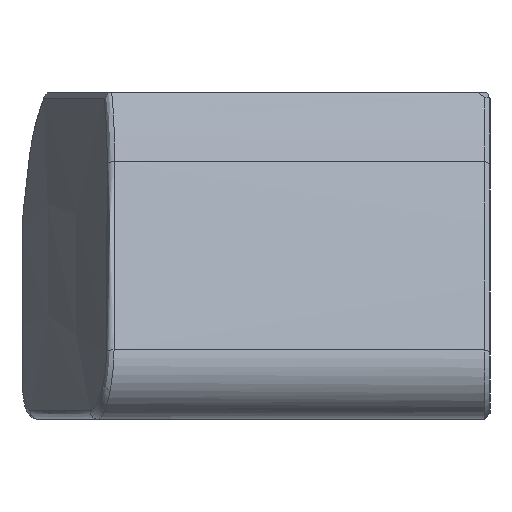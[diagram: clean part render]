
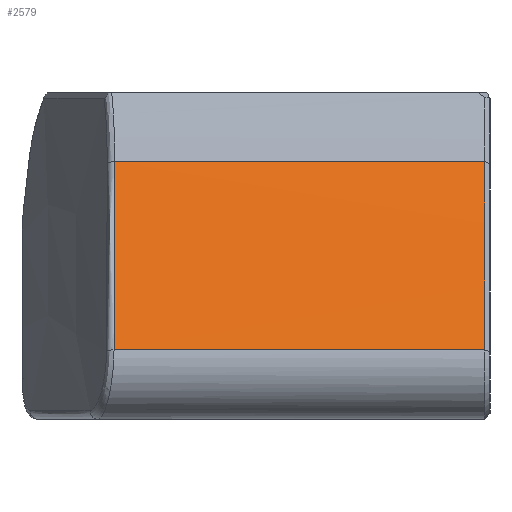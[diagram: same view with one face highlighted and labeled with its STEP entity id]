
A CAD part, left-side view. The second image highlights one B-rep face of the part: STEP entity #2579.
In plain terms, the highlighted cylindrical face has radius 138 mm (diameter 276 mm), a partial arc.
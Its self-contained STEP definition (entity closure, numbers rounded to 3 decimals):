
#778 = LINE ( 'NONE', #779, #4036 ) ;
#779 = CARTESIAN_POINT ( 'NONE',  ( -130.348, -5., 45.313 ) ) ;
#780 = DIRECTION ( 'NONE',  ( 0., -1., 0. ) ) ;
#1423 = CARTESIAN_POINT ( 'NONE',  ( 0., -4.6, 0. ) ) ;
#1424 = DIRECTION ( 'NONE',  ( 0., 1., 0. ) ) ;
#1425 = DIRECTION ( 'NONE',  ( 0., 0., 1. ) ) ;
#1785 = CARTESIAN_POINT ( 'NONE',  ( -124.399, -4.6, 59.741 ) ) ;
#1786 = CARTESIAN_POINT ( 'NONE',  ( -124.399, 23.745, 59.741 ) ) ;
#1787 = CARTESIAN_POINT ( 'NONE',  ( -130.348, 23.801, 45.313 ) ) ;
#1788 = CARTESIAN_POINT ( 'NONE',  ( -130.348, -4.6, 45.313 ) ) ;
#2259 = AXIS2_PLACEMENT_3D ( 'NONE', #1423, #1424, #1425 ) ;
#2420 = EDGE_CURVE ( 'NONE', #5043, #5044, #778, .T. ) ;
#2545 = EDGE_CURVE ( 'NONE', #5042, #5043, #4177, .T. ) ;
#2546 = EDGE_CURVE ( 'NONE', #5041, #5042, #3260, .T. ) ;
#2579 = ADVANCED_FACE ( 'NONE', ( #3999 ), #4020, .T. ) ;
#2706 = EDGE_CURVE ( 'NONE', #5044, #5041, #2723, .T. ) ;
#2723 = CIRCLE ( 'NONE', #2259, 138. ) ;
#3256 = CARTESIAN_POINT ( 'NONE',  ( -124.399, 23.745, 59.741 ) ) ;
#3257 = CARTESIAN_POINT ( 'NONE',  ( -126.654, 23.754, 55.044 ) ) ;
#3258 = CARTESIAN_POINT ( 'NONE',  ( -128.638, 23.773, 50.235 ) ) ;
#3259 = CARTESIAN_POINT ( 'NONE',  ( -130.348, 23.801, 45.313 ) ) ;
#3260 = LINE ( 'NONE', #3261, #3986 ) ;
#3261 = CARTESIAN_POINT ( 'NONE',  ( -124.399, -5., 59.741 ) ) ;
#3262 = DIRECTION ( 'NONE',  ( 0., 1., 0. ) ) ;
#3479 = CARTESIAN_POINT ( 'NONE',  ( 0., -5., 0. ) ) ;
#3480 = DIRECTION ( 'NONE',  ( 0., 1., 0. ) ) ;
#3481 = DIRECTION ( 'NONE',  ( 0., 0., 1. ) ) ;
#3986 = VECTOR ( 'NONE', #3262, 1000. ) ;
#3999 = FACE_OUTER_BOUND ( 'NONE', #5197, .T. ) ;
#4017 = AXIS2_PLACEMENT_3D ( 'NONE', #3479, #3480, #3481 ) ;
#4020 = CYLINDRICAL_SURFACE ( 'NONE', #4017, 138. ) ;
#4036 = VECTOR ( 'NONE', #780, 1000. ) ;
#4177 = B_SPLINE_CURVE_WITH_KNOTS ( 'NONE', 3,
 ( #3256, #3257, #3258, #3259 ),
 .UNSPECIFIED., .F., .F.,
 ( 4, 4 ),
 ( 0., 0.016 ),
 .UNSPECIFIED. ) ;
#4327 = ORIENTED_EDGE ( 'NONE', *, *, #2706, .T. ) ;
#4332 = ORIENTED_EDGE ( 'NONE', *, *, #2420, .T. ) ;
#4342 = ORIENTED_EDGE ( 'NONE', *, *, #2545, .T. ) ;
#4400 = ORIENTED_EDGE ( 'NONE', *, *, #2546, .T. ) ;
#5041 = VERTEX_POINT ( 'NONE', #1785 ) ;
#5042 = VERTEX_POINT ( 'NONE', #1786 ) ;
#5043 = VERTEX_POINT ( 'NONE', #1787 ) ;
#5044 = VERTEX_POINT ( 'NONE', #1788 ) ;
#5197 = EDGE_LOOP ( 'NONE', ( #4400, #4342, #4332, #4327 ) ) ;
